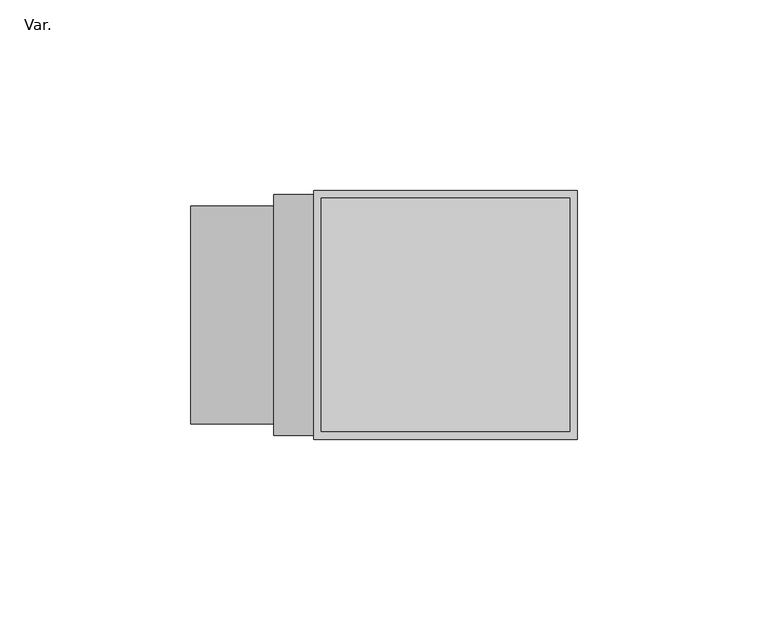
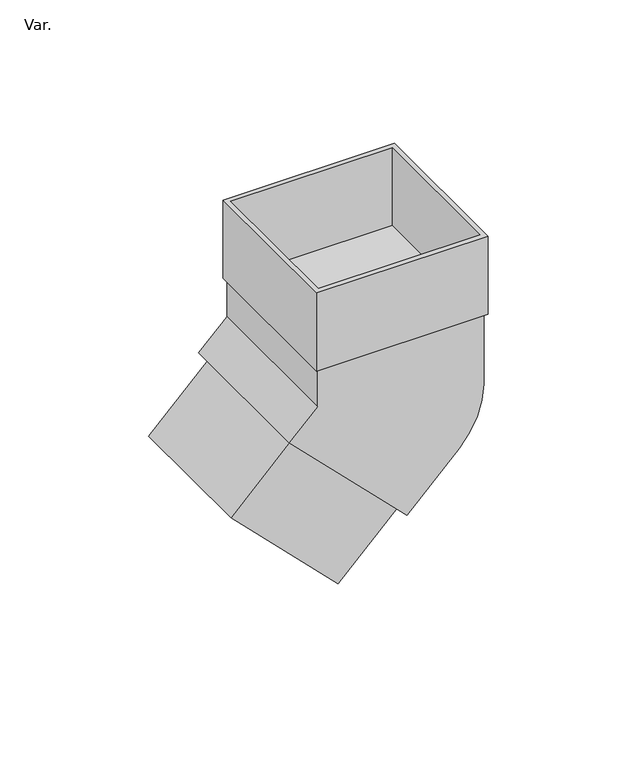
"""IFC4 building model written with IfcOpenShell, lengths in millimetres: pipe fitting geometry, PlastigamaWavin_Unionesdetubería_CanalesyBajantes_Codo45deBajante : Var.."""

from ifc_helpers import new_model, si_unit, point, frame, frame_2d, origin, place, context, project, spatial, polyline, circle_curve, trimmed, segment, composite_curve, outline, extrude, source, transform, mapped, element, save


def var_9f9eca47(model_context):
    return source(origin(), model_context, "Body", "SweptSolid", [
        extrude(outline(composite_curve([segment(polyline([(2.5102291, -44.9366359), (-44.9366359, 2.5102291), (-23.7234325, 23.7234325)]), True, "CONTINUOUS"), segment(trimmed(circle_curve(frame_2d((0.6509832, -1.5716125)), 35.127645), [point((-23.7234325, 23.7234325))], [point((0.0, 33.55))], False, "CARTESIAN"), True, "CONTINUOUS"), segment(polyline([(0.0, 33.55), (30.0, 33.55), (30.0, -33.55), (13.896865, -33.55), (2.5102291, -44.9366359)]), True, "CONTINUOUS")], self_intersect=False)), frame((0.0, -31.605, 0.0), z_axis=(0.0, 1.0, 0.0), x_axis=(0.0, 0.0, 1.0)), (0.0, 0.0, 1.0), 63.21),
        extrude(outline(polyline([(-57.26, 0.0), (0.0, 0.0), (0.0, -61.14), (-57.26, -61.14), (-57.26, 0.0)]), holes=[polyline([(-55.26, -2.0), (-55.26, -59.14), (-2.0, -59.14), (-2.0, -2.0), (-55.26, -2.0)])]), frame((-66.7225959, 28.63, -23.4900873), z_axis=(0.7071067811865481, 0.0, 0.7071067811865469), x_axis=(0.0, 1.0, 0.0)), (0.0, 0.0, 1.0), 33.79),
        extrude(outline(polyline([(34.55, 32.605), (34.55, -32.605), (-34.55, -32.605), (-34.55, 32.605), (34.55, 32.605)]), holes=[polyline([(32.55, 30.605), (-32.55, 30.605), (-32.55, -30.605), (32.55, -30.605), (32.55, 30.605)])]), frame((0.0, 0.0, 30.0), z_axis=(0.0, 0.0, 1.0), x_axis=(1.0, 0.0, 0.0)), (0.0, 0.0, 1.0), 33.37),
    ])


if __name__ == "__main__":
    model = new_model("IFC4")
    model_context = context("Model", 3, world=origin())
    ifc_project = project(units=[si_unit("LENGTHUNIT", "METRE", prefix="MILLI")], contexts=[model_context])
    site = spatial("IfcSite", under=ifc_project)
    building = spatial("IfcBuilding", under=site)
    placement = place(None, origin())
    var_shape = var_9f9eca47(model_context)
    element("IfcPipeFitting", 1, ObjectType="PlastigamaWavin_Unionesdetubería_CanalesyBajantes_Codo45deBajante : Var.", at=placement, inside=building, context=model_context, shape_type="MappedRepresentation", body=[
        mapped(var_shape, transform((0.0, 0.0, 0.0), x_axis=(1.0, 0.0, 0.0), y_axis=(0.0, 1.0, 0.0), z_axis=(0.0, 0.0, 1.0))),
    ])
    save(model, "model.ifc")
